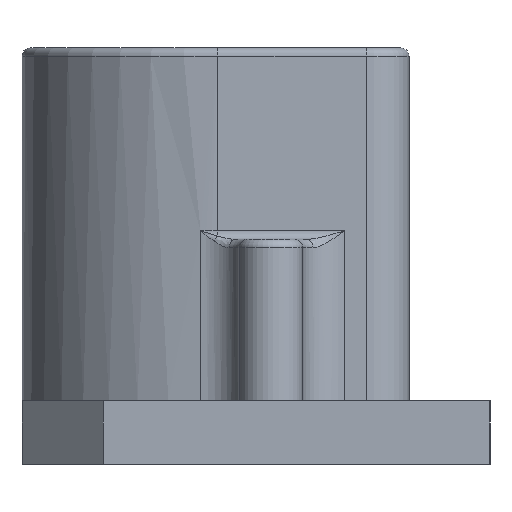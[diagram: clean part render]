
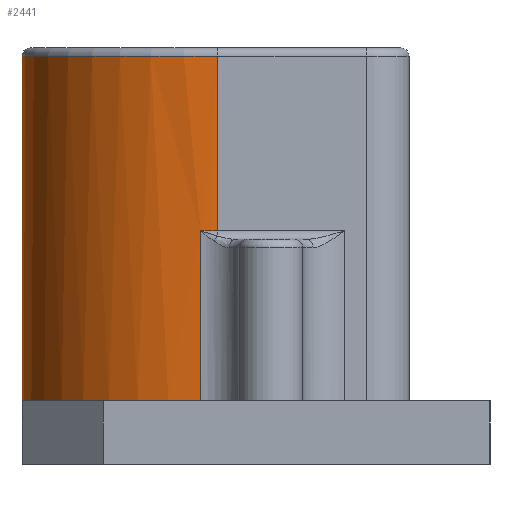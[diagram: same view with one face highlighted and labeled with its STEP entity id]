
A CAD part, left-side view. The second image highlights one B-rep face of the part: STEP entity #2441.
In plain terms, the highlighted cylindrical face has radius 23 mm (diameter 46 mm), a partial arc.
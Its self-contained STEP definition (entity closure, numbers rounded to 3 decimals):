
#1051=CARTESIAN_POINT('',(0.,0.,0.));
#1052=DIRECTION('',(0.,0.,1.));
#1053=DIRECTION('',(0.855,0.518,0.));
#1054=AXIS2_PLACEMENT_3D('',#1051,#1052,#1053);
#1153=CARTESIAN_POINT('',(0.,0.,24.));
#1154=DIRECTION('',(0.,0.,-1.));
#1155=DIRECTION('',(0.855,0.518,0.));
#1156=AXIS2_PLACEMENT_3D('',#1153,#1154,#1155);
#1168=CARTESIAN_POINT('',(19.676,11.911,24.));
#1187=DIRECTION('',(0.,0.,-1.));
#1188=VECTOR('',#1187,24.);
#1189=CARTESIAN_POINT('',(19.676,11.911,24.));
#1190=LINE('',#1189,#1188);
#1196=DIRECTION('',(0.,0.,1.));
#1197=VECTOR('',#1196,16.5);
#1198=CARTESIAN_POINT('',(23.,0.,24.));
#1199=LINE('',#1198,#1197);
#1200=CARTESIAN_POINT('',(0.,0.,20.));
#1201=DIRECTION('',(0.,0.,1.));
#1202=DIRECTION('',(-0.996,0.088,0.));
#1203=AXIS2_PLACEMENT_3D('',#1200,#1201,#1202);
#1205=CARTESIAN_POINT('',(-22.911,2.016,20.));
#1297=DIRECTION('',(0.,0.,1.));
#1298=VECTOR('',#1297,20.5);
#1299=CARTESIAN_POINT('',(-23.,0.,20.));
#1300=LINE('',#1299,#1298);
#1332=CARTESIAN_POINT('',(0.,0.,40.5));
#1333=DIRECTION('',(0.,0.,1.));
#1334=DIRECTION('',(1.,0.,0.));
#1335=AXIS2_PLACEMENT_3D('',#1332,#1333,#1334);
#1940=DIRECTION('',(0.,0.,1.));
#1941=VECTOR('',#1940,20.);
#1942=CARTESIAN_POINT('',(-22.911,2.016,0.));
#1943=LINE('',#1942,#1941);
#2030=CARTESIAN_POINT('',(19.676,11.911,0.));
#2031=CARTESIAN_POINT('',(-22.911,2.016,0.));
#2032=VERTEX_POINT('',#2030);
#2033=VERTEX_POINT('',#2031);
#2038=CARTESIAN_POINT('',(23.,0.,24.));
#2040=VERTEX_POINT('',#2038);
#2059=VERTEX_POINT('',#1168);
#2095=CARTESIAN_POINT('',(23.,0.,40.5));
#2096=VERTEX_POINT('',#2095);
#2099=CARTESIAN_POINT('',(-23.,0.,40.5));
#2100=VERTEX_POINT('',#2099);
#2109=CARTESIAN_POINT('',(-23.,0.,20.));
#2110=VERTEX_POINT('',#2109);
#2128=VERTEX_POINT('',#1205);
#2421=CARTESIAN_POINT('',(0.,0.,0.));
#2422=DIRECTION('',(0.,0.,1.));
#2423=DIRECTION('',(1.,0.,0.));
#2424=AXIS2_PLACEMENT_3D('',#2421,#2422,#2423);
#2425=CYLINDRICAL_SURFACE('',#2424,23.);
#2427=ORIENTED_EDGE('',*,*,#2426,.F.);
#2429=ORIENTED_EDGE('',*,*,#2428,.F.);
#2430=ORIENTED_EDGE('',*,*,#2176,.F.);
#2431=ORIENTED_EDGE('',*,*,#2413,.F.);
#2432=ORIENTED_EDGE('',*,*,#2346,.T.);
#2434=ORIENTED_EDGE('',*,*,#2433,.T.);
#2436=ORIENTED_EDGE('',*,*,#2435,.T.);
#2438=ORIENTED_EDGE('',*,*,#2437,.F.);
#2439=EDGE_LOOP('',(#2427,#2429,#2430,#2431,#2432,#2434,#2436,#2438));
#2440=FACE_OUTER_BOUND('',#2439,.F.);
#2441=ADVANCED_FACE('',(#2440),#2425,.T.);
#1055=CIRCLE('',#1054,23.);
#1157=CIRCLE('',#1156,23.);
#1204=CIRCLE('',#1203,23.);
#1336=CIRCLE('',#1335,23.);
#2176=EDGE_CURVE('',#2032,#2033,#1055,.T.);
#2346=EDGE_CURVE('',#2059,#2040,#1157,.T.);
#2413=EDGE_CURVE('',#2059,#2032,#1190,.T.);
#2426=EDGE_CURVE('',#2128,#2110,#1204,.T.);
#2428=EDGE_CURVE('',#2033,#2128,#1943,.T.);
#2433=EDGE_CURVE('',#2040,#2096,#1199,.T.);
#2435=EDGE_CURVE('',#2096,#2100,#1336,.T.);
#2437=EDGE_CURVE('',#2110,#2100,#1300,.T.);
